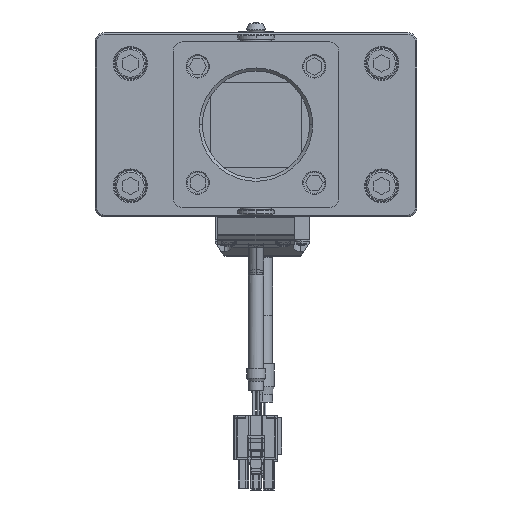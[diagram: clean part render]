
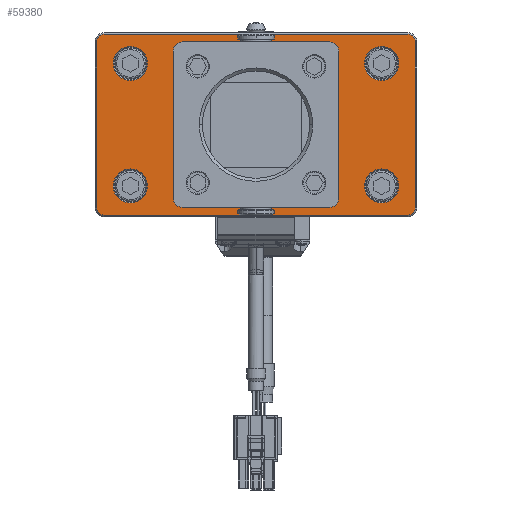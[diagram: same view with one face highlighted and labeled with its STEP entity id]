
A CAD part, front view. The second image highlights one B-rep face of the part: STEP entity #59380.
In plain terms, the highlighted planar face has unit normal (0, -1, 0) as drawn and (0, 1, 0) by its records, which use the part's own axes.
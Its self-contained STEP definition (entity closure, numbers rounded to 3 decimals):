
#57832=CARTESIAN_POINT('',(0.,6.,0.));
#57833=DIRECTION('',(0.,-1.,0.));
#57834=DIRECTION('',(1.,0.,0.));
#57835=AXIS2_PLACEMENT_3D('',#57832,#57833,#57834);
#57837=CARTESIAN_POINT('',(0.,6.,0.));
#57838=DIRECTION('',(0.,-1.,0.));
#57839=DIRECTION('',(-1.,0.,0.));
#57840=AXIS2_PLACEMENT_3D('',#57837,#57838,#57839);
#57842=CARTESIAN_POINT('',(-49.5,6.,-27.));
#57843=DIRECTION('',(0.,1.,0.));
#57844=DIRECTION('',(0.,0.,-1.));
#57845=AXIS2_PLACEMENT_3D('',#57842,#57843,#57844);
#57847=DIRECTION('',(-1.,0.,0.));
#57848=VECTOR('',#57847,99.);
#57849=CARTESIAN_POINT('',(49.5,6.,
-29.5));
#57850=LINE('',#57849,#57848);
#57851=CARTESIAN_POINT('',(49.5,6.,-27.));
#57852=DIRECTION('',(0.,1.,0.));
#57853=DIRECTION('',(1.,0.,0.));
#57854=AXIS2_PLACEMENT_3D('',#57851,#57852,#57853);
#57856=DIRECTION('',(0.,0.,-1.));
#57857=VECTOR('',#57856,54.);
#57858=CARTESIAN_POINT('',(52.,6.,27.));
#57859=LINE('',#57858,#57857);
#57860=CARTESIAN_POINT('',(49.5,6.,27.));
#57861=DIRECTION('',(0.,1.,0.));
#57862=DIRECTION('',(0.,0.,1.));
#57863=AXIS2_PLACEMENT_3D('',#57860,#57861,#57862);
#57865=DIRECTION('',(1.,0.,0.));
#57866=VECTOR('',#57865,99.);
#57867=CARTESIAN_POINT('',(-49.5,6.,
29.5));
#57868=LINE('',#57867,#57866);
#57869=CARTESIAN_POINT('',(-49.5,6.,27.));
#57870=DIRECTION('',(0.,1.,0.));
#57871=DIRECTION('',(-1.,0.,0.));
#57872=AXIS2_PLACEMENT_3D('',#57869,#57870,#57871);
#57874=DIRECTION('',(0.,0.,1.));
#57875=VECTOR('',#57874,54.);
#57876=CARTESIAN_POINT('',(-52.,6.,
-27.));
#57877=LINE('',#57876,#57875);
#57878=CARTESIAN_POINT('',(41.,6.,20.));
#57879=DIRECTION('',(0.,-1.,0.));
#57880=DIRECTION('',(1.,0.,0.));
#57881=AXIS2_PLACEMENT_3D('',#57878,#57879,#57880);
#57883=CARTESIAN_POINT('',(41.,6.,20.));
#57884=DIRECTION('',(0.,-1.,0.));
#57885=DIRECTION('',(-1.,0.,0.));
#57886=AXIS2_PLACEMENT_3D('',#57883,#57884,#57885);
#57888=CARTESIAN_POINT('',(-41.,6.,20.));
#57889=DIRECTION('',(0.,-1.,0.));
#57890=DIRECTION('',(1.,0.,0.));
#57891=AXIS2_PLACEMENT_3D('',#57888,#57889,#57890);
#57893=CARTESIAN_POINT('',(-41.,6.,20.));
#57894=DIRECTION('',(0.,-1.,0.));
#57895=DIRECTION('',(-1.,0.,0.));
#57896=AXIS2_PLACEMENT_3D('',#57893,#57894,#57895);
#57898=CARTESIAN_POINT('',(41.,6.,-20.));
#57899=DIRECTION('',(0.,-1.,0.));
#57900=DIRECTION('',(1.,0.,0.));
#57901=AXIS2_PLACEMENT_3D('',#57898,#57899,#57900);
#57903=CARTESIAN_POINT('',(41.,6.,-20.));
#57904=DIRECTION('',(0.,-1.,0.));
#57905=DIRECTION('',(-1.,0.,0.));
#57906=AXIS2_PLACEMENT_3D('',#57903,#57904,#57905);
#57908=CARTESIAN_POINT('',(-41.,6.,-20.));
#57909=DIRECTION('',(0.,-1.,0.));
#57910=DIRECTION('',(1.,0.,0.));
#57911=AXIS2_PLACEMENT_3D('',#57908,#57909,#57910);
#57913=CARTESIAN_POINT('',(-41.,6.,-20.));
#57914=DIRECTION('',(0.,-1.,0.));
#57915=DIRECTION('',(-1.,0.,0.));
#57916=AXIS2_PLACEMENT_3D('',#57913,#57914,#57915);
#57918=CARTESIAN_POINT('',(-19.,6.,-19.));
#57919=DIRECTION('',(0.,1.,0.));
#57920=DIRECTION('',(1.,0.,0.));
#57921=AXIS2_PLACEMENT_3D('',#57918,#57919,#57920);
#57923=CARTESIAN_POINT('',(-19.,6.,-19.));
#57924=DIRECTION('',(0.,1.,0.));
#57925=DIRECTION('',(-1.,0.,0.));
#57926=AXIS2_PLACEMENT_3D('',#57923,#57924,#57925);
#57928=CARTESIAN_POINT('',(-19.,6.,19.));
#57929=DIRECTION('',(0.,1.,0.));
#57930=DIRECTION('',(0.,0.,-1.));
#57931=AXIS2_PLACEMENT_3D('',#57928,#57929,#57930);
#57933=CARTESIAN_POINT('',(-19.,6.,19.));
#57934=DIRECTION('',(0.,1.,0.));
#57935=DIRECTION('',(0.,0.,1.));
#57936=AXIS2_PLACEMENT_3D('',#57933,#57934,#57935);
#57938=CARTESIAN_POINT('',(19.,6.,19.));
#57939=DIRECTION('',(0.,1.,0.));
#57940=DIRECTION('',(-1.,0.,0.));
#57941=AXIS2_PLACEMENT_3D('',#57938,#57939,#57940);
#57943=CARTESIAN_POINT('',(19.,6.,19.));
#57944=DIRECTION('',(0.,1.,0.));
#57945=DIRECTION('',(1.,0.,0.));
#57946=AXIS2_PLACEMENT_3D('',#57943,#57944,#57945);
#57948=CARTESIAN_POINT('',(19.,6.,-19.));
#57949=DIRECTION('',(0.,1.,0.));
#57950=DIRECTION('',(0.,0.,1.));
#57951=AXIS2_PLACEMENT_3D('',#57948,#57949,#57950);
#57953=CARTESIAN_POINT('',(19.,6.,-19.));
#57954=DIRECTION('',(0.,1.,0.));
#57955=DIRECTION('',(0.,0.,-1.));
#57956=AXIS2_PLACEMENT_3D('',#57953,#57954,#57955);
#58864=CARTESIAN_POINT('',(18.,6.,0.));
#58865=CARTESIAN_POINT('',(-18.,6.,0.));
#58866=VERTEX_POINT('',#58864);
#58867=VERTEX_POINT('',#58865);
#58912=CARTESIAN_POINT('',(-49.5,6.,-29.5));
#58913=CARTESIAN_POINT('',(-52.,6.,-27.));
#58914=VERTEX_POINT('',#58912);
#58915=VERTEX_POINT('',#58913);
#58920=CARTESIAN_POINT('',(-52.,6.,
27.));
#58921=VERTEX_POINT('',#58920);
#58924=CARTESIAN_POINT('',(-49.5,6.,29.5));
#58925=VERTEX_POINT('',#58924);
#58928=CARTESIAN_POINT('',(49.5,6.,29.5));
#58929=VERTEX_POINT('',#58928);
#58932=CARTESIAN_POINT('',(52.,6.,27.));
#58933=VERTEX_POINT('',#58932);
#58936=CARTESIAN_POINT('',(52.,6.,
-27.));
#58937=VERTEX_POINT('',#58936);
#58940=CARTESIAN_POINT('',(49.5,6.,-29.5));
#58941=VERTEX_POINT('',#58940);
#58960=CARTESIAN_POINT('',(46.55,6.,20.));
#58961=CARTESIAN_POINT('',(35.45,6.,20.));
#58962=VERTEX_POINT('',#58960);
#58963=VERTEX_POINT('',#58961);
#58984=CARTESIAN_POINT('',(-35.45,6.,20.));
#58985=CARTESIAN_POINT('',(-46.55,6.,20.));
#58986=VERTEX_POINT('',#58984);
#58987=VERTEX_POINT('',#58985);
#59000=CARTESIAN_POINT('',(46.55,6.,-20.));
#59001=CARTESIAN_POINT('',(35.45,6.,-20.));
#59002=VERTEX_POINT('',#59000);
#59003=VERTEX_POINT('',#59001);
#59008=CARTESIAN_POINT('',(-35.45,6.,-20.));
#59009=CARTESIAN_POINT('',(-46.55,6.,-20.));
#59010=VERTEX_POINT('',#59008);
#59011=VERTEX_POINT('',#59009);
#59108=CARTESIAN_POINT('',(-16.,6.,-19.));
#59109=CARTESIAN_POINT('',(-22.,6.,-19.));
#59110=VERTEX_POINT('',#59108);
#59111=VERTEX_POINT('',#59109);
#59116=CARTESIAN_POINT('',(-19.,6.,16.));
#59117=CARTESIAN_POINT('',(-19.,6.,22.));
#59118=VERTEX_POINT('',#59116);
#59119=VERTEX_POINT('',#59117);
#59124=CARTESIAN_POINT('',(16.,6.,19.));
#59125=CARTESIAN_POINT('',(22.,6.,19.));
#59126=VERTEX_POINT('',#59124);
#59127=VERTEX_POINT('',#59125);
#59132=CARTESIAN_POINT('',(19.,6.,-16.));
#59133=CARTESIAN_POINT('',(19.,6.,-22.));
#59134=VERTEX_POINT('',#59132);
#59135=VERTEX_POINT('',#59133);
#59304=CARTESIAN_POINT('',(0.,6.,0.));
#59305=DIRECTION('',(0.,1.,0.));
#59306=DIRECTION('',(1.,0.,0.));
#59307=AXIS2_PLACEMENT_3D('',#59304,#59305,#59306);
#59308=PLANE('',#59307);
#59310=ORIENTED_EDGE('',*,*,#59309,.F.);
#59312=ORIENTED_EDGE('',*,*,#59311,.F.);
#59314=ORIENTED_EDGE('',*,*,#59313,.F.);
#59316=ORIENTED_EDGE('',*,*,#59315,.F.);
#59318=ORIENTED_EDGE('',*,*,#59317,.F.);
#59320=ORIENTED_EDGE('',*,*,#59319,.F.);
#59322=ORIENTED_EDGE('',*,*,#59321,.F.);
#59324=ORIENTED_EDGE('',*,*,#59323,.F.);
#59325=EDGE_LOOP('',(#59310,#59312,#59314,#59316,#59318,#59320,#59322,#59324));
#59326=FACE_OUTER_BOUND('',#59325,.F.);
#59328=ORIENTED_EDGE('',*,*,#59327,.F.);
#59329=ORIENTED_EDGE('',*,*,#59294,.F.);
#59330=EDGE_LOOP('',(#59328,#59329));
#59331=FACE_BOUND('',#59330,.F.);
#59333=ORIENTED_EDGE('',*,*,#59332,.F.);
#59335=ORIENTED_EDGE('',*,*,#59334,.F.);
#59336=EDGE_LOOP('',(#59333,#59335));
#59337=FACE_BOUND('',#59336,.F.);
#59339=ORIENTED_EDGE('',*,*,#59338,.F.);
#59341=ORIENTED_EDGE('',*,*,#59340,.F.);
#59342=EDGE_LOOP('',(#59339,#59341));
#59343=FACE_BOUND('',#59342,.F.);
#59345=ORIENTED_EDGE('',*,*,#59344,.F.);
#59347=ORIENTED_EDGE('',*,*,#59346,.F.);
#59348=EDGE_LOOP('',(#59345,#59347));
#59349=FACE_BOUND('',#59348,.F.);
#59351=ORIENTED_EDGE('',*,*,#59350,.F.);
#59353=ORIENTED_EDGE('',*,*,#59352,.F.);
#59354=EDGE_LOOP('',(#59351,#59353));
#59355=FACE_BOUND('',#59354,.F.);
#59357=ORIENTED_EDGE('',*,*,#59356,.T.);
#59359=ORIENTED_EDGE('',*,*,#59358,.T.);
#59360=EDGE_LOOP('',(#59357,#59359));
#59361=FACE_BOUND('',#59360,.F.);
#59363=ORIENTED_EDGE('',*,*,#59362,.T.);
#59365=ORIENTED_EDGE('',*,*,#59364,.T.);
#59366=EDGE_LOOP('',(#59363,#59365));
#59367=FACE_BOUND('',#59366,.F.);
#59369=ORIENTED_EDGE('',*,*,#59368,.T.);
#59371=ORIENTED_EDGE('',*,*,#59370,.T.);
#59372=EDGE_LOOP('',(#59369,#59371));
#59373=FACE_BOUND('',#59372,.F.);
#59375=ORIENTED_EDGE('',*,*,#59374,.T.);
#59377=ORIENTED_EDGE('',*,*,#59376,.T.);
#59378=EDGE_LOOP('',(#59375,#59377));
#59379=FACE_BOUND('',#59378,.F.);
#59380=ADVANCED_FACE('',(#59326,#59331,#59337,#59343,#59349,#59355,#59361,
#59367,#59373,#59379),#59308,.T.);
#57836=CIRCLE('',#57835,18.);
#57841=CIRCLE('',#57840,18.);
#57846=CIRCLE('',#57845,2.5);
#57855=CIRCLE('',#57854,2.5);
#57864=CIRCLE('',#57863,2.5);
#57873=CIRCLE('',#57872,2.5);
#57882=CIRCLE('',#57881,5.55);
#57887=CIRCLE('',#57886,5.55);
#57892=CIRCLE('',#57891,5.55);
#57897=CIRCLE('',#57896,5.55);
#57902=CIRCLE('',#57901,5.55);
#57907=CIRCLE('',#57906,5.55);
#57912=CIRCLE('',#57911,5.55);
#57917=CIRCLE('',#57916,5.55);
#57922=CIRCLE('',#57921,3.);
#57927=CIRCLE('',#57926,3.);
#57932=CIRCLE('',#57931,3.);
#57937=CIRCLE('',#57936,3.);
#57942=CIRCLE('',#57941,3.);
#57947=CIRCLE('',#57946,3.);
#57952=CIRCLE('',#57951,3.);
#57957=CIRCLE('',#57956,3.);
#59294=EDGE_CURVE('',#58867,#58866,#57841,.T.);
#59309=EDGE_CURVE('',#58914,#58915,#57846,.T.);
#59311=EDGE_CURVE('',#58941,#58914,#57850,.T.);
#59313=EDGE_CURVE('',#58937,#58941,#57855,.T.);
#59315=EDGE_CURVE('',#58933,#58937,#57859,.T.);
#59317=EDGE_CURVE('',#58929,#58933,#57864,.T.);
#59319=EDGE_CURVE('',#58925,#58929,#57868,.T.);
#59321=EDGE_CURVE('',#58921,#58925,#57873,.T.);
#59323=EDGE_CURVE('',#58915,#58921,#57877,.T.);
#59327=EDGE_CURVE('',#58866,#58867,#57836,.T.);
#59332=EDGE_CURVE('',#58962,#58963,#57882,.T.);
#59334=EDGE_CURVE('',#58963,#58962,#57887,.T.);
#59338=EDGE_CURVE('',#58986,#58987,#57892,.T.);
#59340=EDGE_CURVE('',#58987,#58986,#57897,.T.);
#59344=EDGE_CURVE('',#59002,#59003,#57902,.T.);
#59346=EDGE_CURVE('',#59003,#59002,#57907,.T.);
#59350=EDGE_CURVE('',#59010,#59011,#57912,.T.);
#59352=EDGE_CURVE('',#59011,#59010,#57917,.T.);
#59356=EDGE_CURVE('',#59110,#59111,#57922,.T.);
#59358=EDGE_CURVE('',#59111,#59110,#57927,.T.);
#59362=EDGE_CURVE('',#59118,#59119,#57932,.T.);
#59364=EDGE_CURVE('',#59119,#59118,#57937,.T.);
#59368=EDGE_CURVE('',#59126,#59127,#57942,.T.);
#59370=EDGE_CURVE('',#59127,#59126,#57947,.T.);
#59374=EDGE_CURVE('',#59134,#59135,#57952,.T.);
#59376=EDGE_CURVE('',#59135,#59134,#57957,.T.);
